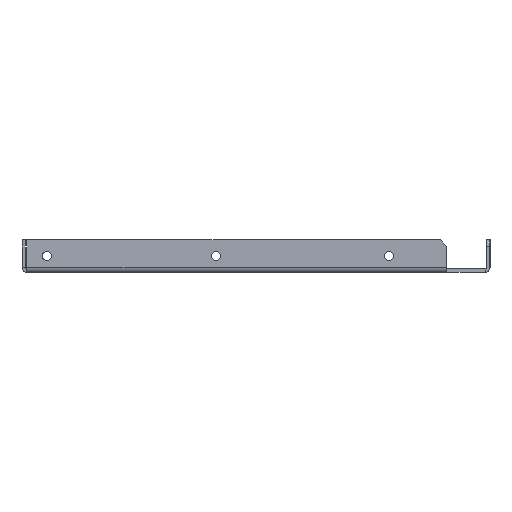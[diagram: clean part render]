
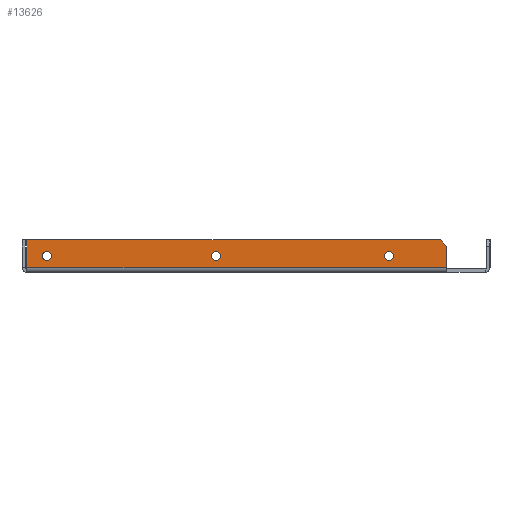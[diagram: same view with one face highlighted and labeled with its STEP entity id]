
A CAD part, left-side view. The second image highlights one B-rep face of the part: STEP entity #13626.
In plain terms, the highlighted planar face has unit normal (-1, 0, 0).
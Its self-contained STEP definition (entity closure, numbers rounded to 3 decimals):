
#5606=CARTESIAN_POINT(' ',(-234.5,-88.25,10.5));
#5607=VERTEX_POINT(' ',#5606);
#5621=CARTESIAN_POINT(' ',(-234.5,-88.25,10.5));
#5626=DIRECTION(' ',(0.,0.,-1.));
#5631=VECTOR(' ',#5626,1.);
#5636=LINE('',#5621,#5631);
#5641=CARTESIAN_POINT(' ',(-234.5,-88.25,0.6));
#5642=VERTEX_POINT(' ',#5641);
#5646=EDGE_CURVE(' ',#5607,#5642,#5636,.T.);
#9526=CARTESIAN_POINT(' ',(-234.5,-88.25,0.6));
#9531=DIRECTION(' ',(0.,1.,0.));
#9536=VECTOR(' ',#9531,1.);
#9541=LINE('',#9526,#9536);
#9546=CARTESIAN_POINT(' ',(-234.5,106.043,0.6));
#9547=VERTEX_POINT(' ',#9546);
#9551=EDGE_CURVE(' ',#5642,#9547,#9541,.T.);
#13151=CARTESIAN_POINT(' ',(-234.5,-88.25,10.5));
#13156=DIRECTION(' ',(0.,0.707,0.707));
#13161=VECTOR(' ',#13156,1.);
#13166=LINE('',#13151,#13161);
#13171=CARTESIAN_POINT(' ',(-234.5,-85.25,13.5));
#13172=VERTEX_POINT(' ',#13171);
#13176=EDGE_CURVE(' ',#5607,#13172,#13166,.T.);
#13241=DIRECTION(' ',(-1.,-0.,0.));
#13246=CARTESIAN_POINT(' ',(-234.5,-88.25,13.5));
#13251=DIRECTION(' ',(-0.,1.,0.));
#13256=AXIS2_PLACEMENT_3D(' ',#13246,#13241,#13251);
#13261=PLANE('NONE',#13256);
#13266=ORIENTED_EDGE(' ',*,*,#5646,.F.);
#13271=ORIENTED_EDGE(' ',*,*,#13176,.T.);
#13276=CARTESIAN_POINT(' ',(-234.5,-85.25,13.5));
#13281=DIRECTION(' ',(0.,1.,0.));
#13286=VECTOR(' ',#13281,1.);
#13291=LINE('',#13276,#13286);
#13296=CARTESIAN_POINT(' ',(-234.5,106.043,13.5));
#13297=VERTEX_POINT(' ',#13296);
#13301=EDGE_CURVE(' ',#13172,#13297,#13291,.T.);
#13306=ORIENTED_EDGE(' ',*,*,#13301,.T.);
#13311=CARTESIAN_POINT(' ',(-234.5,106.043,0.6));
#13316=DIRECTION(' ',(0.,0.,1.));
#13321=VECTOR(' ',#13316,1.);
#13326=LINE('',#13311,#13321);
#13331=EDGE_CURVE(' ',#9547,#13297,#13326,.T.);
#13336=ORIENTED_EDGE(' ',*,*,#13331,.F.);
#13341=ORIENTED_EDGE(' ',*,*,#9551,.F.);
#13346=EDGE_LOOP(' ',(#13266,#13271,#13306,#13336,#13341));
#13351=FACE_OUTER_BOUND(' ',#13346,.T.);
#13356=CARTESIAN_POINT(' ',(-234.5,96.75,6.));
#13361=DIRECTION(' ',(-1.,-0.,0.));
#13366=DIRECTION(' ',(0.,0.,1.));
#13371=AXIS2_PLACEMENT_3D(' ',#13356,#13361,#13366);
#13376=CIRCLE('',#13371,2.1);
#13381=CARTESIAN_POINT(' ',(-234.5,96.75,8.1));
#13382=VERTEX_POINT(' ',#13381);
#13386=CARTESIAN_POINT(' ',(-234.5,96.75,3.9));
#13387=VERTEX_POINT(' ',#13386);
#13391=EDGE_CURVE(' ',#13382,#13387,#13376,.T.);
#13396=ORIENTED_EDGE(' ',*,*,#13391,.F.);
#13401=CARTESIAN_POINT(' ',(-234.5,96.75,6.));
#13406=DIRECTION(' ',(-1.,0.,0.));
#13411=DIRECTION(' ',(0.,0.,-1.));
#13416=AXIS2_PLACEMENT_3D(' ',#13401,#13406,#13411);
#13421=CIRCLE('',#13416,2.1);
#13426=EDGE_CURVE(' ',#13387,#13382,#13421,.T.);
#13431=ORIENTED_EDGE(' ',*,*,#13426,.F.);
#13436=EDGE_LOOP(' ',(#13396,#13431));
#13441=FACE_BOUND(' ',#13436,.T.);
#13446=CARTESIAN_POINT(' ',(-234.5,-61.5,6.));
#13451=DIRECTION(' ',(-1.,-0.,0.));
#13456=DIRECTION(' ',(0.,0.,1.));
#13461=AXIS2_PLACEMENT_3D(' ',#13446,#13451,#13456);
#13466=CIRCLE('',#13461,2.1);
#13471=CARTESIAN_POINT(' ',(-234.5,-61.5,8.1));
#13472=VERTEX_POINT(' ',#13471);
#13476=CARTESIAN_POINT(' ',(-234.5,-61.5,3.9));
#13477=VERTEX_POINT(' ',#13476);
#13481=EDGE_CURVE(' ',#13472,#13477,#13466,.T.);
#13486=ORIENTED_EDGE(' ',*,*,#13481,.F.);
#13491=CARTESIAN_POINT(' ',(-234.5,-61.5,6.));
#13496=DIRECTION(' ',(-1.,0.,0.));
#13501=DIRECTION(' ',(0.,0.,-1.));
#13506=AXIS2_PLACEMENT_3D(' ',#13491,#13496,#13501);
#13511=CIRCLE('',#13506,2.1);
#13516=EDGE_CURVE(' ',#13477,#13472,#13511,.T.);
#13521=ORIENTED_EDGE(' ',*,*,#13516,.F.);
#13526=EDGE_LOOP(' ',(#13486,#13521));
#13531=FACE_BOUND(' ',#13526,.T.);
#13536=CARTESIAN_POINT(' ',(-234.5,18.5,6.));
#13541=DIRECTION(' ',(-1.,-0.,0.));
#13546=DIRECTION(' ',(0.,0.,1.));
#13551=AXIS2_PLACEMENT_3D(' ',#13536,#13541,#13546);
#13556=CIRCLE('',#13551,2.1);
#13561=CARTESIAN_POINT(' ',(-234.5,18.5,8.1));
#13562=VERTEX_POINT(' ',#13561);
#13566=CARTESIAN_POINT(' ',(-234.5,18.5,3.9));
#13567=VERTEX_POINT(' ',#13566);
#13571=EDGE_CURVE(' ',#13562,#13567,#13556,.T.);
#13576=ORIENTED_EDGE(' ',*,*,#13571,.F.);
#13581=CARTESIAN_POINT(' ',(-234.5,18.5,6.));
#13586=DIRECTION(' ',(-1.,0.,0.));
#13591=DIRECTION(' ',(0.,0.,-1.));
#13596=AXIS2_PLACEMENT_3D(' ',#13581,#13586,#13591);
#13601=CIRCLE('',#13596,2.1);
#13606=EDGE_CURVE(' ',#13567,#13562,#13601,.T.);
#13611=ORIENTED_EDGE(' ',*,*,#13606,.F.);
#13616=EDGE_LOOP(' ',(#13576,#13611));
#13621=FACE_BOUND(' ',#13616,.T.);
#13626=ADVANCED_FACE('NONE',(#13351,#13441,#13531,#13621),#13261,.T.);
